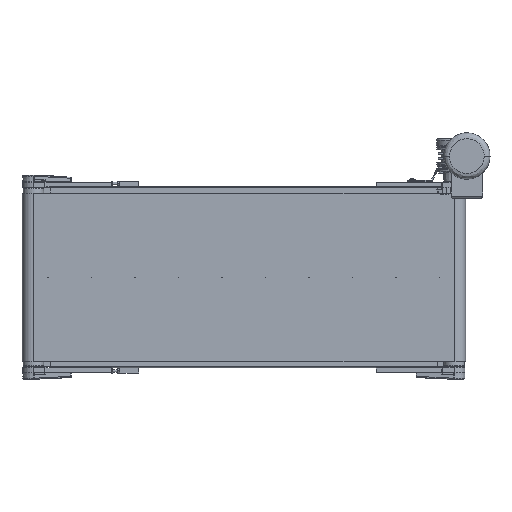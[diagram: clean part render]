
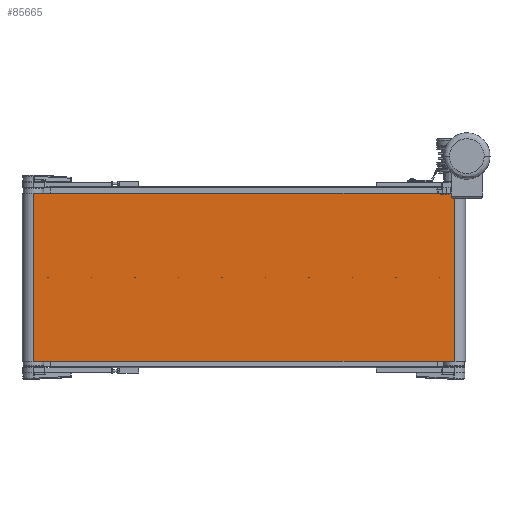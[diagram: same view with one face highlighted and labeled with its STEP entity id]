
A CAD part, front view. The second image highlights one B-rep face of the part: STEP entity #85665.
In plain terms, the highlighted planar face has unit normal (0, -1, 0).
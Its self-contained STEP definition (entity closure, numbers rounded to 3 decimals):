
#3881 = ORIENTED_EDGE ( 'NONE', *, *, #4528, .T. ) ;
#4528 = EDGE_CURVE ( 'NONE', #38555, #122300, #48126, .T. ) ;
#18386 = VECTOR ( 'NONE', #34494, 1000. ) ;
#22557 = CARTESIAN_POINT ( 'NONE',  ( 500., -27., 200. ) ) ;
#23639 = CARTESIAN_POINT ( 'NONE',  ( 500., -27., 200. ) ) ;
#24528 = ORIENTED_EDGE ( 'NONE', *, *, #93664, .F. ) ;
#25216 = CARTESIAN_POINT ( 'NONE',  ( -500., -27., 200. ) ) ;
#32980 = EDGE_LOOP ( 'NONE', ( #3881, #44905, #24528, #93503 ) ) ;
#34494 = DIRECTION ( 'NONE',  ( 1., 0., 0. ) ) ;
#38555 = VERTEX_POINT ( 'NONE', #113539 ) ;
#39189 = VERTEX_POINT ( 'NONE', #23639 ) ;
#44905 = ORIENTED_EDGE ( 'NONE', *, *, #117156, .F. ) ;
#45960 = CARTESIAN_POINT ( 'NONE',  ( -500., -27., 200. ) ) ;
#46023 = DIRECTION ( 'NONE',  ( 0., 1., 0. ) ) ;
#46168 = AXIS2_PLACEMENT_3D ( 'NONE', #25216, #46023, #88406 ) ;
#48126 = LINE ( 'NONE', #68298, #52821 ) ;
#52821 = VECTOR ( 'NONE', #131583, 1000. ) ;
#56663 = LINE ( 'NONE', #110228, #18386 ) ;
#58483 = PLANE ( 'NONE',  #46168 ) ;
#68298 = CARTESIAN_POINT ( 'NONE',  ( -500., -27., -200. ) ) ;
#75356 = DIRECTION ( 'NONE',  ( 0., 0., -1. ) ) ;
#85665 = ADVANCED_FACE ( 'NONE', ( #121084 ), #58483, .F. ) ;
#88406 = DIRECTION ( 'NONE',  ( 0., 0., 1. ) ) ;
#93503 = ORIENTED_EDGE ( 'NONE', *, *, #123196, .T. ) ;
#93664 = EDGE_CURVE ( 'NONE', #118766, #39189, #56663, .T. ) ;
#105941 = LINE ( 'NONE', #22557, #116699 ) ;
#110228 = CARTESIAN_POINT ( 'NONE',  ( -500., -27., 200. ) ) ;
#110609 = DIRECTION ( 'NONE',  ( 0., 0., -1. ) ) ;
#113539 = CARTESIAN_POINT ( 'NONE',  ( -500., -27., -200. ) ) ;
#116699 = VECTOR ( 'NONE', #75356, 1000. ) ;
#117156 = EDGE_CURVE ( 'NONE', #39189, #122300, #105941, .T. ) ;
#118062 = CARTESIAN_POINT ( 'NONE',  ( -500., -27., 200. ) ) ;
#118766 = VERTEX_POINT ( 'NONE', #118062 ) ;
#121084 = FACE_OUTER_BOUND ( 'NONE', #32980, .T. ) ;
#121701 = LINE ( 'NONE', #45960, #121829 ) ;
#121829 = VECTOR ( 'NONE', #110609, 1000. ) ;
#122300 = VERTEX_POINT ( 'NONE', #128668 ) ;
#123196 = EDGE_CURVE ( 'NONE', #118766, #38555, #121701, .T. ) ;
#128668 = CARTESIAN_POINT ( 'NONE',  ( 500., -27., -200. ) ) ;
#131583 = DIRECTION ( 'NONE',  ( 1., 0., 0. ) ) ;
